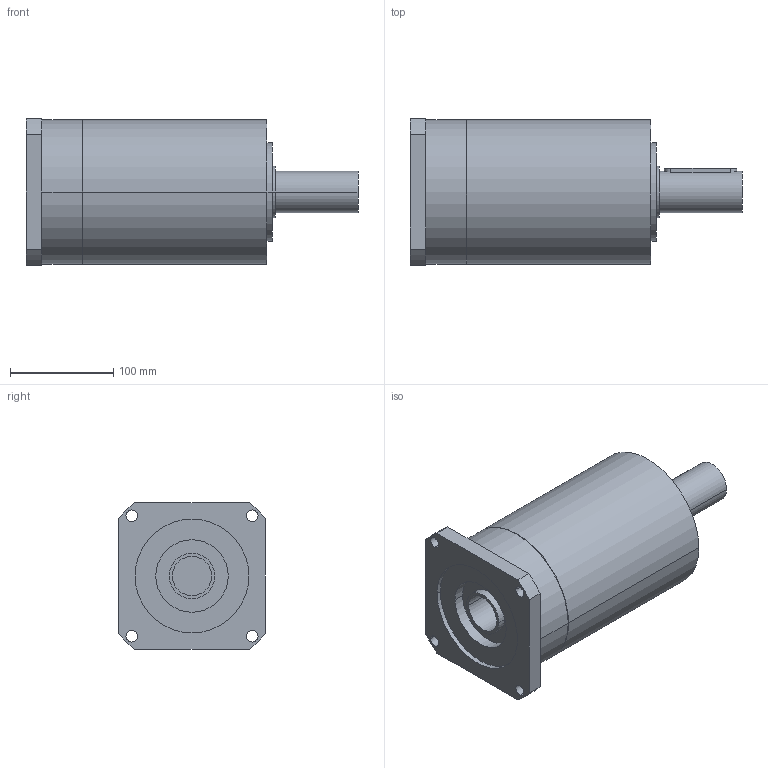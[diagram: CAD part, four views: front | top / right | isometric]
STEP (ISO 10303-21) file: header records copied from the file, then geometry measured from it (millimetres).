
FILE_DESCRIPTION(('CoCreate Modeling STEP Export'),'2;1');
FILE_NAME('GPR150_ig-9-12-16-20-28-35_40_B14_38_P14.stp','2014-08-19T17:04:38',(''),(''),'CoCreate Modeling STEP processor for AP214 (Solid Model)','CoCreate Modeling 16.00C 25-Feb-2009 (C) Parametric Technology GmbH','');
FILE_SCHEMA(('AUTOMOTIVE_DESIGN { 1 0 10303 214 1 1 1 1 }'));
Length unit declared in the file: millimetre
Products named in the file (2): GPR150_ig-9-12-16-20-28-35_40_B14_38_P14
Assembly tree (1 placements, depth 2):
  GPR150_ig-9-12-16-20-28-35_40_B14_38_P14
    GPR150_ig-9-12-16-20-28-35_40_B14_38_P14
Bounding box: 321 x 142 x 142 mm (x, y, z)
Volume: 3618036.1 mm3; surface area: 176681.2 mm2
Topology: 1 solids, 1 shells, 70 faces, 189 edges, 133 vertices
Faces by surface type: cylinder 42, plane 22, cone 6
Entity records: 1968 total; most frequent: CARTESIAN_POINT 385, ORIENTED_EDGE 374, DIRECTION 262, EDGE_CURVE 187, VERTEX_POINT 133, AXIS2_PLACEMENT_3D 98, EDGE_LOOP 92, FACE_OUTER_BOUND 70
